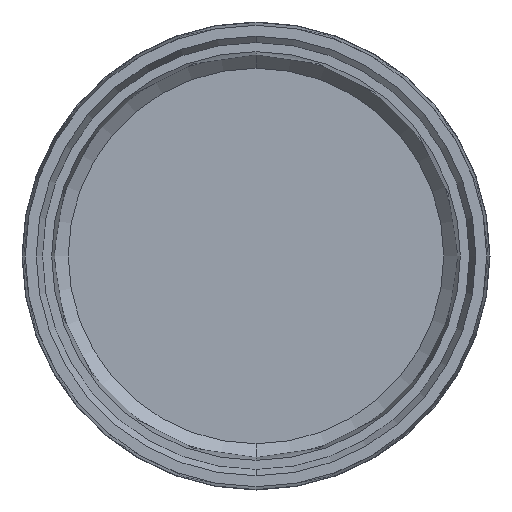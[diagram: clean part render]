
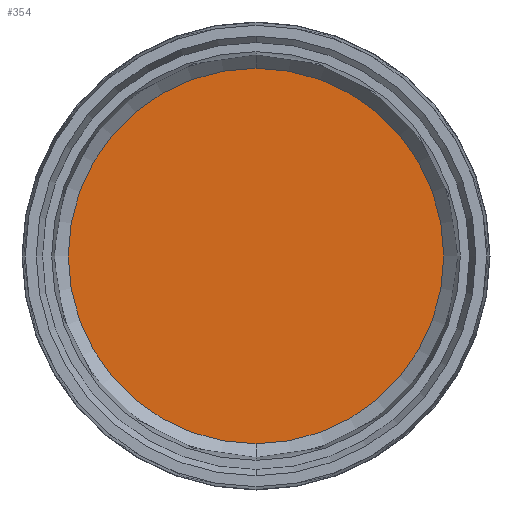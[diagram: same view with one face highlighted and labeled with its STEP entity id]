
A CAD part, front view. The second image highlights one B-rep face of the part: STEP entity #354.
In plain terms, the highlighted planar face has unit normal (0, -1, 0).
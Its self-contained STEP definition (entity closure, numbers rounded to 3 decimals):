
#76 = VERTEX_POINT ( 'NONE', #154 ) ;
#133 = VERTEX_POINT ( 'NONE', #544 ) ;
#142 = ORIENTED_EDGE ( 'NONE', *, *, #328, .T. ) ;
#154 = CARTESIAN_POINT ( 'NONE',  ( 0., 21., -20.536 ) ) ;
#245 = PLANE ( 'NONE',  #272 ) ;
#272 = AXIS2_PLACEMENT_3D ( 'NONE', #303, #404, #692 ) ;
#303 = CARTESIAN_POINT ( 'NONE',  ( 0., 21., 0. ) ) ;
#312 = DIRECTION ( 'NONE',  ( 0., 0., -1. ) ) ;
#328 = EDGE_CURVE ( 'NONE', #133, #76, #487, .T. ) ;
#354 = ADVANCED_FACE ( 'NONE', ( #685 ), #245, .F. ) ;
#364 = EDGE_CURVE ( 'NONE', #76, #133, #499, .T. ) ;
#404 = DIRECTION ( 'NONE',  ( 0., 1., 0. ) ) ;
#407 = CARTESIAN_POINT ( 'NONE',  ( 0., 21., 0. ) ) ;
#464 = DIRECTION ( 'NONE',  ( 0., 0., -1. ) ) ;
#487 = CIRCLE ( 'NONE', #554, 20.536 ) ;
#499 = CIRCLE ( 'NONE', #686, 20.536 ) ;
#544 = CARTESIAN_POINT ( 'NONE',  ( 0., 21., 20.536 ) ) ;
#554 = AXIS2_PLACEMENT_3D ( 'NONE', #638, #628, #464 ) ;
#584 = DIRECTION ( 'NONE',  ( 0., -1., 0. ) ) ;
#628 = DIRECTION ( 'NONE',  ( 0., -1., 0. ) ) ;
#630 = ORIENTED_EDGE ( 'NONE', *, *, #364, .T. ) ;
#638 = CARTESIAN_POINT ( 'NONE',  ( 0., 21., 0. ) ) ;
#685 = FACE_OUTER_BOUND ( 'NONE', #690, .T. ) ;
#686 = AXIS2_PLACEMENT_3D ( 'NONE', #407, #584, #312 ) ;
#690 = EDGE_LOOP ( 'NONE', ( #630, #142 ) ) ;
#692 = DIRECTION ( 'NONE',  ( 0., 0., 1. ) ) ;
